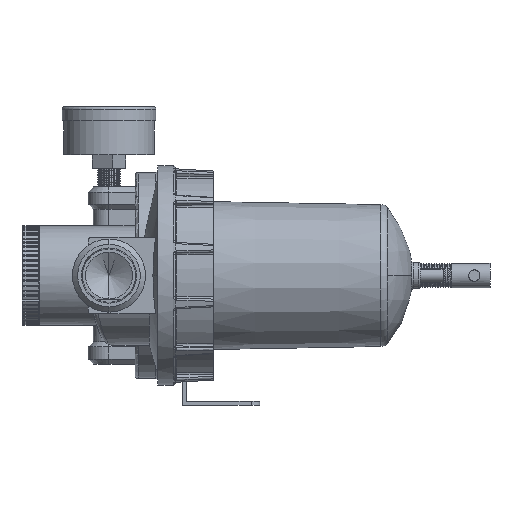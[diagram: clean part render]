
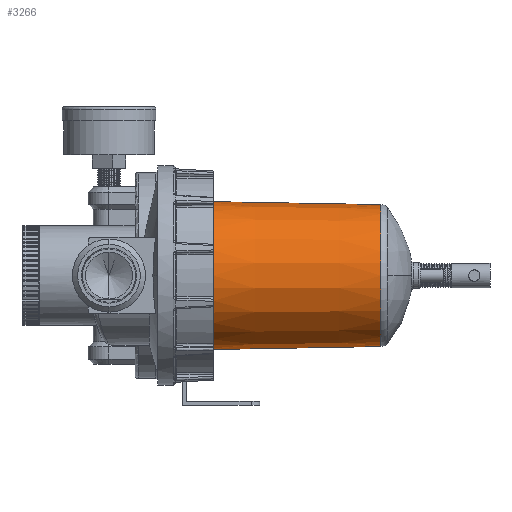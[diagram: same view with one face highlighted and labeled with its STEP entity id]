
A CAD part, left-side view. The second image highlights one B-rep face of the part: STEP entity #3266.
In plain terms, the highlighted conical face has half-angle 1 degrees and reference radius 40.75 mm.
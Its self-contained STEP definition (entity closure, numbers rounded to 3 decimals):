
#415 = EDGE_CURVE ( 'NONE', #4214, #28570, #43748, .T. ) ;
#2059 = DIRECTION ( 'NONE',  ( 0., 0., -1. ) ) ;
#2668 = VECTOR ( 'NONE', #44664, 1000. ) ;
#3266 = ADVANCED_FACE ( 'NONE', ( #23217 ), #19174, .T. ) ;
#4214 = VERTEX_POINT ( 'NONE', #47972 ) ;
#4602 = VERTEX_POINT ( 'NONE', #39568 ) ;
#5999 = AXIS2_PLACEMENT_3D ( 'NONE', #18784, #17097, #43020 ) ;
#7000 = CIRCLE ( 'NONE', #49625, 42.469 ) ;
#7685 = ORIENTED_EDGE ( 'NONE', *, *, #36662, .T. ) ;
#8783 = EDGE_CURVE ( 'NONE', #50640, #4602, #10621, .T. ) ;
#10621 = LINE ( 'NONE', #35674, #34162 ) ;
#14973 = EDGE_LOOP ( 'NONE', ( #46101, #7685, #32732, #31879 ) ) ;
#16516 = EDGE_CURVE ( 'NONE', #4602, #28570, #7000, .T. ) ;
#17097 = DIRECTION ( 'NONE',  ( 0., 1., 0. ) ) ;
#18579 = CARTESIAN_POINT ( 'NONE',  ( 0., 98.5, 0. ) ) ;
#18784 = CARTESIAN_POINT ( 'NONE',  ( 0., 0., 0. ) ) ;
#19174 = CONICAL_SURFACE ( 'NONE', #5999, 40.75, 0.017 ) ;
#21171 = CARTESIAN_POINT ( 'NONE',  ( 0., 0., 40.75 ) ) ;
#22901 = AXIS2_PLACEMENT_3D ( 'NONE', #33020, #47287, #2059 ) ;
#23217 = FACE_OUTER_BOUND ( 'NONE', #14973, .T. ) ;
#28570 = VERTEX_POINT ( 'NONE', #41980 ) ;
#29980 = CIRCLE ( 'NONE', #22901, 40.788 ) ;
#31879 = ORIENTED_EDGE ( 'NONE', *, *, #16516, .F. ) ;
#32732 = ORIENTED_EDGE ( 'NONE', *, *, #415, .T. ) ;
#33020 = CARTESIAN_POINT ( 'NONE',  ( 0., 2.184, 0. ) ) ;
#34162 = VECTOR ( 'NONE', #49963, 1000. ) ;
#35674 = CARTESIAN_POINT ( 'NONE',  ( 0., 0., -40.75 ) ) ;
#36662 = EDGE_CURVE ( 'NONE', #50640, #4214, #29980, .T. ) ;
#37140 = CARTESIAN_POINT ( 'NONE',  ( 0., 2.184, -40.788 ) ) ;
#39568 = CARTESIAN_POINT ( 'NONE',  ( 0., 98.5, -42.469 ) ) ;
#41980 = CARTESIAN_POINT ( 'NONE',  ( 0., 98.5, 42.469 ) ) ;
#43020 = DIRECTION ( 'NONE',  ( 0., 0., 1. ) ) ;
#43748 = LINE ( 'NONE', #21171, #2668 ) ;
#44664 = DIRECTION ( 'NONE',  ( 0., 1., 0.017 ) ) ;
#46101 = ORIENTED_EDGE ( 'NONE', *, *, #8783, .F. ) ;
#47287 = DIRECTION ( 'NONE',  ( 0., 1., 0. ) ) ;
#47888 = DIRECTION ( 'NONE',  ( 0., 1., 0. ) ) ;
#47972 = CARTESIAN_POINT ( 'NONE',  ( 0., 2.184, 40.788 ) ) ;
#49625 = AXIS2_PLACEMENT_3D ( 'NONE', #18579, #47888, #51256 ) ;
#49963 = DIRECTION ( 'NONE',  ( 0., 1., -0.017 ) ) ;
#50640 = VERTEX_POINT ( 'NONE', #37140 ) ;
#51256 = DIRECTION ( 'NONE',  ( 0., 0., 1. ) ) ;
